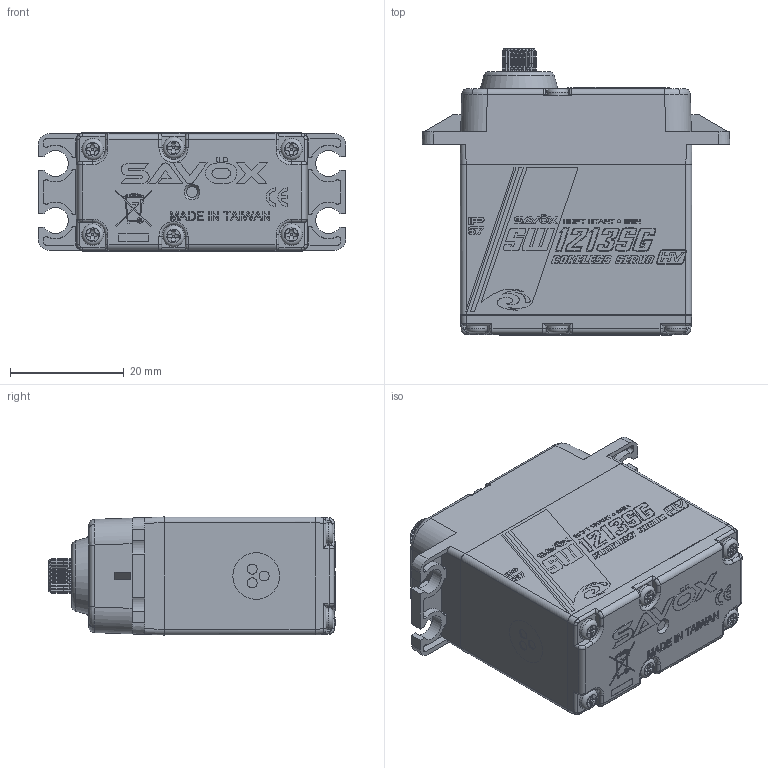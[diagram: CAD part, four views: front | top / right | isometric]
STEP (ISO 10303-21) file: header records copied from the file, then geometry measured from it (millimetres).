
FILE_DESCRIPTION (( 'STEP AP214' ), '1' );
FILE_NAME ('SW-1213SG_3D??+??.STEP', '2025-04-16T10:38:04', ( '' ), ( '' ), 'SwSTEP 2.0', 'SolidWorks 2024', '' );
FILE_SCHEMA (( 'AUTOMOTIVE_DESIGN' ));
Length unit declared in the file: millimetre
Products named in the file (1): SW-1213SG_3D零件+齒輪
Bounding box: 54 x 50.25 x 20.74 mm (x, y, z)
Volume: 36472.7 mm3; surface area: 7876.1 mm2
Topology: 1 solids, 1 shells, 1126 faces, 5401 edges, 4469 vertices
Faces by surface type: plane 660, cylinder 251, cone 111, torus 66, bspline 38
Full cylindrical faces by diameter (mm): 0.258 x1, 0.558 x1, 1.75 x3, 2.5 x1, 3.8 x8, 6 x1, 6.1 x1
Entity records: 73607 total; most frequent: CARTESIAN_POINT 19088, ORIENTED_EDGE 10708, DIRECTION 6508, EDGE_CURVE 5354, VERTEX_POINT 4458, VECTOR 3122, LINE 3122, AXIS2_PLACEMENT_3D 1693
